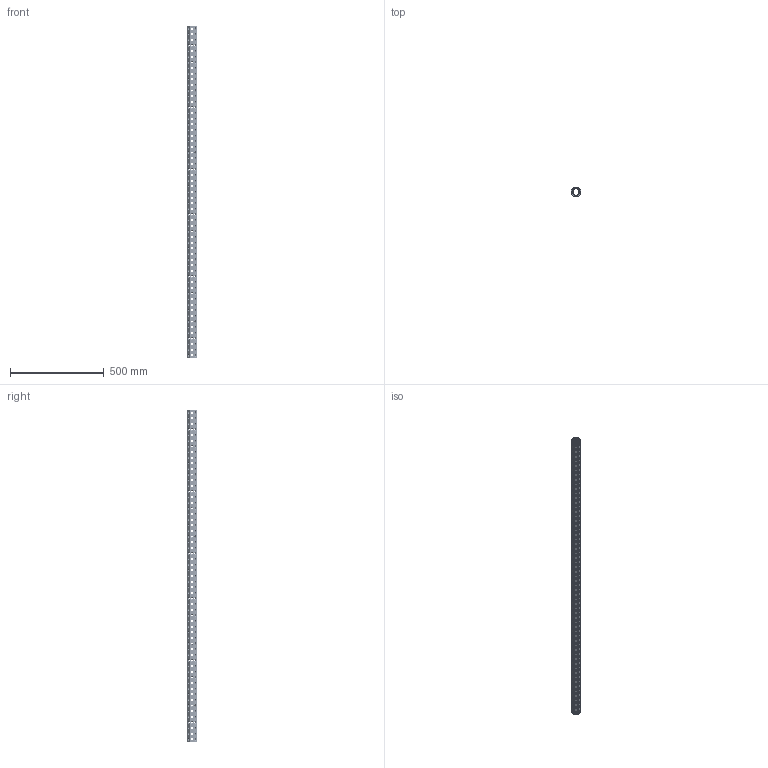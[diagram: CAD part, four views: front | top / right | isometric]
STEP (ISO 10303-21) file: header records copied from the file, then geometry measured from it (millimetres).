
FILE_DESCRIPTION(('CATIA V5 STEP Exchange'),'2;1');
FILE_NAME('U:\Room\唐宝山\EGT002\46-01-010288-01-EGT002-1768.stp','2021-08-24T01:37:38+00:00',('none'),('none'),'CATIA Version 5 Release 21 GA (IN-10)','CATIA V5 STEP AP203','none');
FILE_SCHEMA(('CONFIG_CONTROL_DESIGN'));
Products named in the file (1): 46-01-010288-01-EGT002-1768
Bounding box: 50 x 50 x 1768 mm (x, y, z)
Volume: 1259656.5 mm3; surface area: 607505.9 mm2
Topology: 1 solids, 1 shells, 2444 faces, 6736 edges, 4176 vertices
Faces by surface type: cone 1416, cylinder 1002, plane 26
Entity records: 105225 total; most frequent: CARTESIAN_POINT 46630, ORIENTED_EDGE 13472, DIRECTION 9219, EDGE_CURVE 6736, VERTEX_POINT 4176, AXIS2_PLACEMENT_3D 4168, EDGE_LOOP 3272, VECTOR 2608
